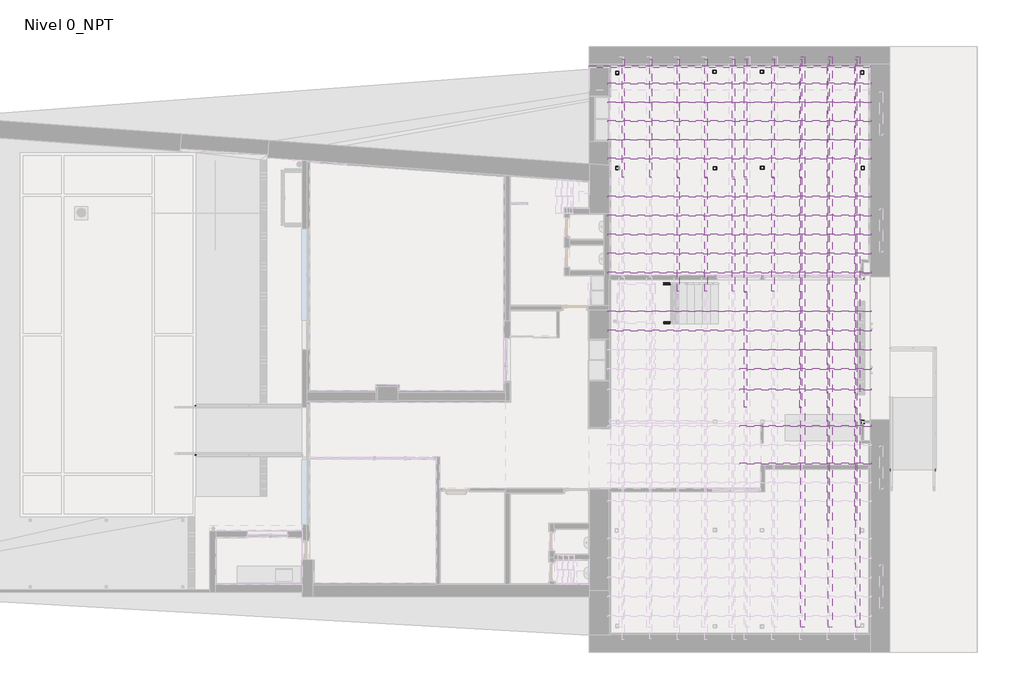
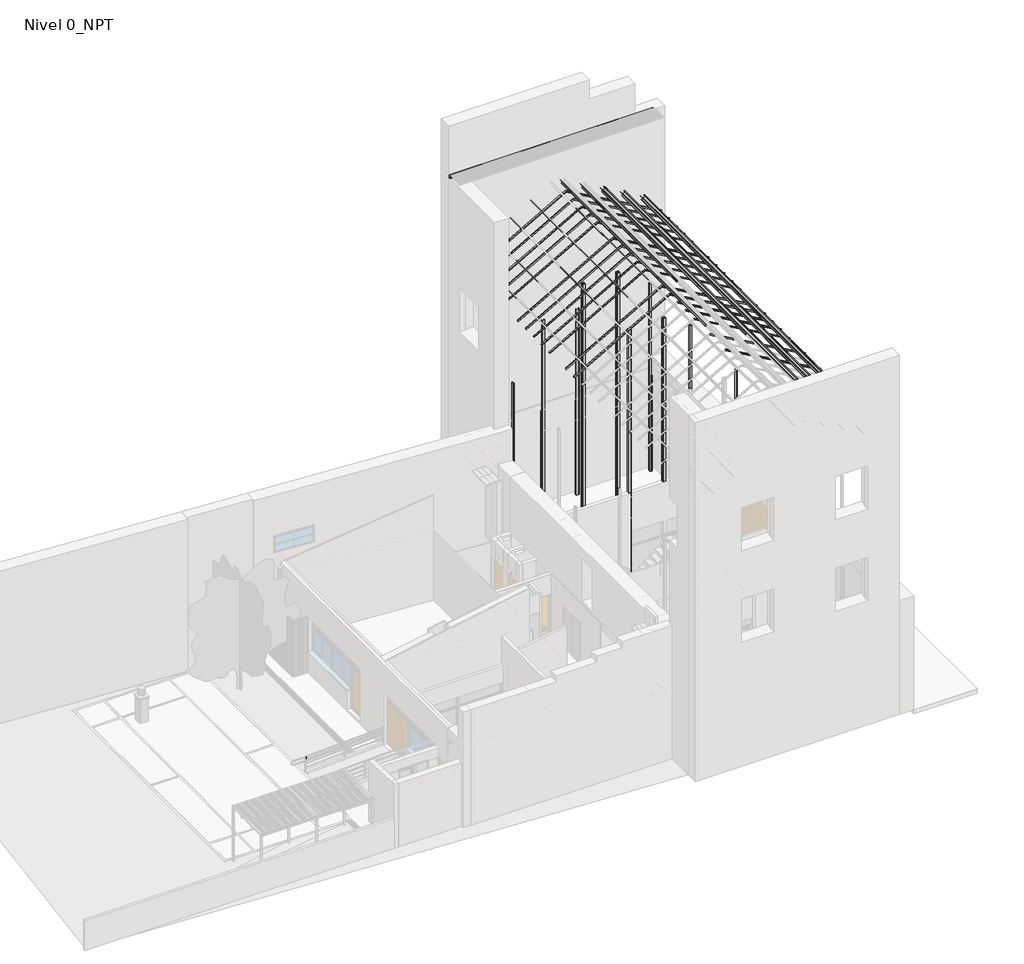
# One storey, part 7 of 10: 60 beams, 24 columns, 4 proxies.
"""IFC4 building model written with IfcOpenShell, lengths in millimetres."""

from ifc_helpers import new_model, si_unit, point, frame, frame_2d, origin, place, context, project, spatial, polyline, circle_curve, trimmed, segment, composite_curve, outline, extrude, transform, mapped, element, save
from components import c150x19_3_1b759e16, c150x19_3_503bdf3b, c150x19_3_91954537, ipn_140_41878df7, ipn_80_0cb7c897, ipn_80_a594fd54, ipn_80_11f7b24b, ipn_80_3f6c81a5, ipn_80_bc9c091f, ipn_80_898660c7, ipn_80_d1422b3e, ipn_80_3f087a86, ipn_80_43449075, ipn_80_99c5317e, ipn_80_1ac3ab99, ipn_80_9606c04a, ipn_80_8b3ddc1d, ipn_80_c03a737b, ipn_80_c00870bf, ipn_80_984d361e, upe160_6c25a5e3, m_soporte_metal_circular_m_soporte_metal_circular_cf76aa7a, upe_120_b411e4a0, upe_120_d63b093c, upe_120_001e46b5, upe_120_53fdf7fa, upe_120_1fc0e0ef, upe_120_cf57cb14, upe_120_7fe497cd, upe_120_22fd8285, upe_120_8100fb59, upe_120_21539871

model = new_model("IFC4")

# Units and contexts
model_context = context("Model", 3, world=origin())
ifc_project = project(units=[si_unit("LENGTHUNIT", "METRE", prefix="MILLI")], contexts=[model_context])

# Site, building, storey
site = spatial("IfcSite", under=ifc_project)
building = spatial("IfcBuilding", under=site)
storey = spatial("IfcBuildingStorey", under=building, Name="Nivel 0_NPT", Elevation=0.0)

# Beams
placement = place(None, origin())
c150x19_3_shape = c150x19_3_1b759e16(model_context)
element("IfcBeam", 1, ObjectType="EST-PER-C-HGalv : C150X19.3", at=placement, inside=storey, context=model_context, shape_type="MappedRepresentation", body=[
    mapped(c150x19_3_shape, transform((12674.2221596, 3778.6072273, 14601.8569732), x_axis=(0.0, -1.0, 0.0), y_axis=(0.8706797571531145, 0.0, -0.49185034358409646), z_axis=(0.49185034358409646, 0.0, 0.8706797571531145))),
])
c150x19_3_2_shape = c150x19_3_503bdf3b(model_context)
element("IfcBeam", 2, ObjectType="EST-PER-C-HGalv : C150X19.3", at=placement, inside=storey, context=model_context, shape_type="MappedRepresentation", body=[
    mapped(c150x19_3_2_shape, transform((14561.4205332, 3778.6072273, 13535.7713535), x_axis=(0.0, -1.0, 0.0), y_axis=(0.8706797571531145, 0.0, -0.49185034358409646), z_axis=(0.49185034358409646, 0.0, 0.8706797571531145))),
])
c150x19_3_3_shape = c150x19_3_91954537(model_context)
element("IfcBeam", 3, ObjectType="EST-PER-C-HGalv : C150X19.3", at=placement, inside=storey, context=model_context, shape_type="MappedRepresentation", body=[
    mapped(c150x19_3_3_shape, transform((13617.8213464, 3778.6072273, 14068.8141634), x_axis=(0.0, -1.0, 0.0), y_axis=(0.8706797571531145, 0.0, -0.49185034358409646), z_axis=(0.49185034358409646, 0.0, 0.8706797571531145))),
])
element("IfcBeam", 4, ObjectType="IPN - Secciones en I con alas cónicas : IPN 140", at=placement, inside=storey, context=model_context, shape_type="SweptSolid", body=[
    extrude(outline(composite_curve([segment(polyline([(70.0, 33.0), (70.0, -33.0), (66.6671583, -33.0)]), True, "CONTINUOUS"), segment(trimmed(circle_curve(frame_2d((66.6671583, -29.6)), 3.4), [point((66.6671583, -33.0))], [point((63.2999963, -30.0714027))], False, "CARTESIAN"), True, "CONTINUOUS"), segment(polyline([(63.2999963, -30.0714027), (60.176359, -7.7597073)]), True, "CONTINUOUS"), segment(trimmed(circle_curve(frame_2d((54.531411, -8.55)), 5.7), [point((60.176359, -7.7597073))], [point((54.531411, -2.85))], True, "CARTESIAN"), True, "CONTINUOUS"), segment(polyline([(54.531411, -2.85), (-54.5314111, -2.85)]), True, "CONTINUOUS"), segment(trimmed(circle_curve(frame_2d((-54.5314111, -8.55)), 5.7), [point((-54.5314111, -2.85))], [point((-60.176359, -7.7597073))], True, "CARTESIAN"), True, "CONTINUOUS"), segment(polyline([(-60.176359, -7.7597073), (-63.2999964, -30.0714027)]), True, "CONTINUOUS"), segment(trimmed(circle_curve(frame_2d((-66.6671584, -29.6)), 3.4), [point((-63.2999964, -30.0714027))], [point((-66.6671584, -33.0))], False, "CARTESIAN"), True, "CONTINUOUS"), segment(polyline([(-66.6671584, -33.0), (-70.0, -33.0), (-70.0, 33.0), (-66.6671584, 33.0)]), True, "CONTINUOUS"), segment(trimmed(circle_curve(frame_2d((-66.6671584, 29.6)), 3.4), [point((-66.6671584, 33.0))], [point((-63.2999964, 30.0714027))], False, "CARTESIAN"), True, "CONTINUOUS"), segment(polyline([(-63.2999964, 30.0714027), (-60.176359, 7.7597073)]), True, "CONTINUOUS"), segment(trimmed(circle_curve(frame_2d((-54.5314111, 8.55)), 5.7), [point((-60.176359, 7.7597073))], [point((-54.5314111, 2.85))], True, "CARTESIAN"), True, "CONTINUOUS"), segment(polyline([(-54.5314111, 2.85), (54.531411, 2.85)]), True, "CONTINUOUS"), segment(trimmed(circle_curve(frame_2d((54.531411, 8.55)), 5.7), [point((54.531411, 2.85))], [point((60.176359, 7.7597073))], True, "CARTESIAN"), True, "CONTINUOUS"), segment(polyline([(60.176359, 7.7597073), (63.2999963, 30.0714027)]), True, "CONTINUOUS"), segment(trimmed(circle_curve(frame_2d((66.6671583, 29.6)), 3.4), [point((63.2999963, 30.0714027))], [point((66.6671583, 33.0))], False, "CARTESIAN"), True, "CONTINUOUS"), segment(polyline([(66.6671583, 33.0), (70.0, 33.0)]), True, "CONTINUOUS")], self_intersect=False)), frame((9655.6040754, 4877.5924402, -59.79128), z_axis=(-0.7954706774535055, 0.0, 0.6059920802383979), x_axis=(0.6059920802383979, 0.0, 0.7954706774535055)), (0.0, 0.0, 1.0), 2567.0),
])
element("IfcBeam", 5, ObjectType="IPN - Secciones en I con alas cónicas : IPN 140", at=placement, inside=storey, context=model_context, shape_type="SweptSolid", body=[
    extrude(outline(composite_curve([segment(polyline([(70.0, 33.0), (70.0, -33.0), (66.6671584, -33.0)]), True, "CONTINUOUS"), segment(trimmed(circle_curve(frame_2d((66.6671584, -29.6)), 3.4), [point((66.6671584, -33.0))], [point((63.2999964, -30.0714027))], False, "CARTESIAN"), True, "CONTINUOUS"), segment(polyline([(63.2999964, -30.0714027), (60.176359, -7.7597073)]), True, "CONTINUOUS"), segment(trimmed(circle_curve(frame_2d((54.5314111, -8.55)), 5.7), [point((60.176359, -7.7597073))], [point((54.5314111, -2.85))], True, "CARTESIAN"), True, "CONTINUOUS"), segment(polyline([(54.5314111, -2.85), (-54.5314111, -2.85)]), True, "CONTINUOUS"), segment(trimmed(circle_curve(frame_2d((-54.5314111, -8.55)), 5.7), [point((-54.5314111, -2.85))], [point((-60.176359, -7.7597073))], True, "CARTESIAN"), True, "CONTINUOUS"), segment(polyline([(-60.176359, -7.7597073), (-63.2999964, -30.0714027)]), True, "CONTINUOUS"), segment(trimmed(circle_curve(frame_2d((-66.6671583, -29.6)), 3.4), [point((-63.2999964, -30.0714027))], [point((-66.6671583, -33.0))], False, "CARTESIAN"), True, "CONTINUOUS"), segment(polyline([(-66.6671583, -33.0), (-69.9999999, -33.0), (-69.9999999, 33.0), (-66.6671583, 33.0)]), True, "CONTINUOUS"), segment(trimmed(circle_curve(frame_2d((-66.6671583, 29.6)), 3.4), [point((-66.6671583, 33.0))], [point((-63.2999964, 30.0714026))], False, "CARTESIAN"), True, "CONTINUOUS"), segment(polyline([(-63.2999964, 30.0714026), (-60.176359, 7.7597072)]), True, "CONTINUOUS"), segment(trimmed(circle_curve(frame_2d((-54.5314111, 8.55)), 5.7), [point((-60.176359, 7.7597072))], [point((-54.5314111, 2.85))], True, "CARTESIAN"), True, "CONTINUOUS"), segment(polyline([(-54.5314111, 2.85), (54.5314111, 2.85)]), True, "CONTINUOUS"), segment(trimmed(circle_curve(frame_2d((54.5314111, 8.55)), 5.7), [point((54.5314111, 2.85))], [point((60.176359, 7.7597072))], True, "CARTESIAN"), True, "CONTINUOUS"), segment(polyline([(60.176359, 7.7597072), (63.2999964, 30.0714026)]), True, "CONTINUOUS"), segment(trimmed(circle_curve(frame_2d((66.6671584, 29.6)), 3.4), [point((63.2999964, 30.0714026))], [point((66.6671584, 33.0))], False, "CARTESIAN"), True, "CONTINUOUS"), segment(polyline([(66.6671584, 33.0), (70.0, 33.0)]), True, "CONTINUOUS")], self_intersect=False)), frame((9655.65876, 6211.6250843, -59.8329899), z_axis=(-0.7958622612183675, 0.0, 0.6054777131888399), x_axis=(0.6054777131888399, 0.0, 0.7958622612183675)), (0.0, 0.0, 1.0), 2696.0674776),
])
ipn_140_shape = ipn_140_41878df7(model_context)
element("IfcBeam", 6, ObjectType="IPN - Secciones en I con alas cónicas : IPN 140", at=placement, inside=storey, context=model_context, shape_type="MappedRepresentation", body=[
    mapped(ipn_140_shape, transform((7811.945484, 10737.5539264, -100.0), x_axis=(1.0, 0.0, 0.0), y_axis=(0.0, 1.0, 0.0), z_axis=(0.0, 0.0, 1.0))),
])
ipn_80_shape = ipn_80_0cb7c897(model_context)
element("IfcBeam", 7, ObjectType="IPN - Secciones en I con alas cónicas : IPN 80", at=placement, inside=storey, context=model_context, shape_type="MappedRepresentation", body=[
    mapped(ipn_80_shape, transform((11644.1318224, 11896.8072274, 15034.4503386), x_axis=(0.0, 1.0, 0.0), y_axis=(-0.8706797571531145, 0.0, 0.49185034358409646), z_axis=(0.49185034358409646, 0.0, 0.8706797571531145))),
])
element("IfcBeam", 8, ObjectType="IPN - Secciones en I con alas cónicas : IPN 80", at=placement, inside=storey, context=model_context, shape_type="MappedRepresentation", body=[
    mapped(ipn_80_shape, transform((12587.7310092, 11896.8072274, 14501.4075287), x_axis=(0.0, 1.0, 0.0), y_axis=(-0.8706797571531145, 0.0, 0.49185034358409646), z_axis=(0.49185034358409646, 0.0, 0.8706797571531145))),
])
element("IfcBeam", 9, ObjectType="IPN - Secciones en I con alas cónicas : IPN 80", at=placement, inside=storey, context=model_context, shape_type="MappedRepresentation", body=[
    mapped(ipn_80_shape, transform((13531.3301961, 11896.8072274, 13968.3647188), x_axis=(0.0, 1.0, 0.0), y_axis=(-0.8706797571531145, 0.0, 0.49185034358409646), z_axis=(0.49185034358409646, 0.0, 0.8706797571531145))),
])
ipn_80_2_shape = ipn_80_a594fd54(model_context)
element("IfcBeam", 10, ObjectType="IPN - Secciones en I con alas cónicas : IPN 80", at=placement, inside=storey, context=model_context, shape_type="MappedRepresentation", body=[
    mapped(ipn_80_2_shape, transform((10286.4349459, 7895.8072273, 15567.4931484), x_axis=(0.0, 1.0, 0.0), y_axis=(-0.8706797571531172, 0.0, -0.49185034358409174), z_axis=(-0.49185034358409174, 0.0, 0.8706797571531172))),
])
ipn_80_3_shape = ipn_80_11f7b24b(model_context)
element("IfcBeam", 11, ObjectType="IPN - Secciones en I con alas cónicas : IPN 80", at=placement, inside=storey, context=model_context, shape_type="MappedRepresentation", body=[
    mapped(ipn_80_3_shape, transform((10286.4349459, 11896.8072274, 15567.4931484), x_axis=(0.0, 1.0, 0.0), y_axis=(-0.8706797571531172, 0.0, -0.49185034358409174), z_axis=(-0.49185034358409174, 0.0, 0.8706797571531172))),
])
element("IfcBeam", 12, ObjectType="IPN - Secciones en I con alas cónicas : IPN 80", at=placement, inside=storey, context=model_context, shape_type="MappedRepresentation", body=[
    mapped(ipn_80_3_shape, transform((6510.9498489, 11896.8072274, 13434.7070961), x_axis=(0.0, 1.0, 0.0), y_axis=(-0.8706797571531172, 0.0, -0.49185034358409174), z_axis=(-0.49185034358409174, 0.0, 0.8706797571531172))),
])
element("IfcBeam", 13, ObjectType="IPN - Secciones en I con alas cónicas : IPN 80", at=placement, inside=storey, context=model_context, shape_type="MappedRepresentation", body=[
    mapped(ipn_80_3_shape, transform((9342.5636716, 11896.8072274, 15034.2966353), x_axis=(0.0, 1.0, 0.0), y_axis=(-0.8706797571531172, 0.0, -0.49185034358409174), z_axis=(-0.49185034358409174, 0.0, 0.8706797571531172))),
])
element("IfcBeam", 14, ObjectType="IPN - Secciones en I con alas cónicas : IPN 80", at=placement, inside=storey, context=model_context, shape_type="MappedRepresentation", body=[
    mapped(ipn_80_3_shape, transform((8398.6923974, 11896.8072274, 14501.1001222), x_axis=(0.0, 1.0, 0.0), y_axis=(-0.8706797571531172, 0.0, -0.49185034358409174), z_axis=(-0.49185034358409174, 0.0, 0.8706797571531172))),
])
element("IfcBeam", 15, ObjectType="IPN - Secciones en I con alas cónicas : IPN 80", at=placement, inside=storey, context=model_context, shape_type="MappedRepresentation", body=[
    mapped(ipn_80_3_shape, transform((7454.8211231, 11896.8072274, 13967.9036092), x_axis=(0.0, 1.0, 0.0), y_axis=(-0.8706797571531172, 0.0, -0.49185034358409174), z_axis=(-0.49185034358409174, 0.0, 0.8706797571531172))),
])
ipn_80_4_shape = ipn_80_3f6c81a5(model_context)
element("IfcBeam", 16, ObjectType="IPN - Secciones en I con alas cónicas : IPN 80", at=placement, inside=storey, context=model_context, shape_type="MappedRepresentation", body=[
    mapped(ipn_80_4_shape, transform((9342.5636716, 7895.8072273, 15034.2966353), x_axis=(0.0, 1.0, 0.0), y_axis=(-0.8706797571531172, 0.0, -0.49185034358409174), z_axis=(-0.49185034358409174, 0.0, 0.8706797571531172))),
])
element("IfcBeam", 17, ObjectType="IPN - Secciones en I con alas cónicas : IPN 80", at=placement, inside=storey, context=model_context, shape_type="MappedRepresentation", body=[
    mapped(ipn_80_4_shape, transform((8398.6923974, 7895.8072273, 14501.1001222), x_axis=(0.0, 1.0, 0.0), y_axis=(-0.8706797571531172, 0.0, -0.49185034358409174), z_axis=(-0.49185034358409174, 0.0, 0.8706797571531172))),
])
ipn_80_5_shape = ipn_80_bc9c091f(model_context)
element("IfcBeam", 18, ObjectType="IPN - Secciones en I con alas cónicas : IPN 80", at=placement, inside=storey, context=model_context, shape_type="MappedRepresentation", body=[
    mapped(ipn_80_5_shape, transform((10700.5326356, 11898.3072273, 15567.4931484), x_axis=(0.0, 1.0, 0.0), y_axis=(-0.8706797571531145, 0.0, 0.49185034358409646), z_axis=(0.49185034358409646, 0.0, 0.8706797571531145))),
])
ipn_80_6_shape = ipn_80_898660c7(model_context)
element("IfcBeam", 19, ObjectType="IPN - Secciones en I con alas cónicas : IPN 80", at=placement, inside=storey, context=model_context, shape_type="MappedRepresentation", body=[
    mapped(ipn_80_6_shape, transform((11644.1318224, 7893.3072273, 15034.4503386), x_axis=(0.0, 1.0, 0.0), y_axis=(-0.8706797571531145, 0.0, 0.49185034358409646), z_axis=(0.49185034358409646, 0.0, 0.8706797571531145))),
])
ipn_80_7_shape = ipn_80_d1422b3e(model_context)
element("IfcBeam", 20, ObjectType="IPN - Secciones en I con alas cónicas : IPN 80", at=placement, inside=storey, context=model_context, shape_type="MappedRepresentation", body=[
    mapped(ipn_80_7_shape, transform((12587.7310092, 7885.8072273, 14501.4075287), x_axis=(0.0, 1.0, 0.0), y_axis=(-0.8706797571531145, 0.0, 0.49185034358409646), z_axis=(0.49185034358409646, 0.0, 0.8706797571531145))),
])
ipn_80_8_shape = ipn_80_3f087a86(model_context)
element("IfcBeam", 21, ObjectType="IPN - Secciones en I con alas cónicas : IPN 80", at=placement, inside=storey, context=model_context, shape_type="MappedRepresentation", body=[
    mapped(ipn_80_8_shape, transform((13531.3301961, 7895.8072273, 13968.3647188), x_axis=(0.0, 1.0, 0.0), y_axis=(-0.8706797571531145, 0.0, 0.49185034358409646), z_axis=(0.49185034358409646, 0.0, 0.8706797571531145))),
])
ipn_80_9_shape = ipn_80_43449075(model_context)
element("IfcBeam", 22, ObjectType="IPN - Secciones en I con alas cónicas : IPN 80", at=placement, inside=storey, context=model_context, shape_type="MappedRepresentation", body=[
    mapped(ipn_80_9_shape, transform((14474.9293829, 11895.8072273, 13435.321909), x_axis=(0.0, 1.0, 0.0), y_axis=(-0.8706797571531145, 0.0, 0.49185034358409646), z_axis=(0.49185034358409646, 0.0, 0.8706797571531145))),
])
ipn_80_10_shape = ipn_80_99c5317e(model_context)
element("IfcBeam", 23, ObjectType="IPN - Secciones en I con alas cónicas : IPN 80", at=placement, inside=storey, context=model_context, shape_type="MappedRepresentation", body=[
    mapped(ipn_80_10_shape, transform((14474.9293829, 7894.8072273, 13435.321909), x_axis=(0.0, 1.0, 0.0), y_axis=(-0.8706797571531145, 0.0, 0.49185034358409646), z_axis=(0.49185034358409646, 0.0, 0.8706797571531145))),
])
ipn_80_11_shape = ipn_80_1ac3ab99(model_context)
element("IfcBeam", 24, ObjectType="IPN - Secciones en I con alas cónicas : IPN 80", at=placement, inside=storey, context=model_context, shape_type="MappedRepresentation", body=[
    mapped(ipn_80_11_shape, transform((12587.7310092, 3954.8072273, 14501.4075287), x_axis=(0.0, 1.0, 0.0), y_axis=(-0.8706797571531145, 0.0, 0.49185034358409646), z_axis=(0.49185034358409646, 0.0, 0.8706797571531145))),
])
ipn_80_12_shape = ipn_80_9606c04a(model_context)
element("IfcBeam", 25, ObjectType="IPN - Secciones en I con alas cónicas : IPN 80", at=placement, inside=storey, context=model_context, shape_type="MappedRepresentation", body=[
    mapped(ipn_80_12_shape, transform((13531.3301961, 3964.8072273, 13968.3647188), x_axis=(0.0, 1.0, 0.0), y_axis=(-0.8706797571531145, 0.0, 0.49185034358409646), z_axis=(0.49185034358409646, 0.0, 0.8706797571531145))),
])
ipn_80_13_shape = ipn_80_8b3ddc1d(model_context)
element("IfcBeam", 26, ObjectType="IPN - Secciones en I con alas cónicas : IPN 80", at=placement, inside=storey, context=model_context, shape_type="MappedRepresentation", body=[
    mapped(ipn_80_13_shape, transform((14474.9293829, 3964.8072273, 13435.321909), x_axis=(0.0, 1.0, 0.0), y_axis=(-0.8706797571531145, 0.0, 0.49185034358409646), z_axis=(0.49185034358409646, 0.0, 0.8706797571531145))),
])
ipn_80_14_shape = ipn_80_c03a737b(model_context)
element("IfcBeam", 27, ObjectType="IPN - Secciones en I con alas cónicas : IPN 80", at=placement, inside=storey, context=model_context, shape_type="MappedRepresentation", body=[
    mapped(ipn_80_14_shape, transform((14474.9293829, 54.8072273, 13435.321909), x_axis=(0.0, 1.0, 0.0), y_axis=(-0.8706797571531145, 0.0, 0.49185034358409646), z_axis=(0.49185034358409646, 0.0, 0.8706797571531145))),
])
element("IfcBeam", 28, ObjectType="IPN - Secciones en I con alas cónicas : IPN 80", at=placement, inside=storey, context=model_context, shape_type="MappedRepresentation", body=[
    mapped(ipn_80_14_shape, transform((13531.3301961, 54.8072273, 13968.3647188), x_axis=(0.0, 1.0, 0.0), y_axis=(-0.8706797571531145, 0.0, 0.49185034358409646), z_axis=(0.49185034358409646, 0.0, 0.8706797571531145))),
])
ipn_80_15_shape = ipn_80_c00870bf(model_context)
element("IfcBeam", 29, ObjectType="IPN - Secciones en I con alas cónicas : IPN 80", at=placement, inside=storey, context=model_context, shape_type="MappedRepresentation", body=[
    mapped(ipn_80_15_shape, transform((10700.5326356, 4215.6072273, 15567.4931484), x_axis=(0.0, 1.0, 0.0), y_axis=(-0.8706797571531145, 0.0, 0.49185034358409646), z_axis=(0.49185034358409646, 0.0, 0.8706797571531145))),
])
ipn_80_16_shape = ipn_80_984d361e(model_context)
element("IfcBeam", 30, ObjectType="IPN - Secciones en I con alas cónicas : IPN 80", at=placement, inside=storey, context=model_context, shape_type="MappedRepresentation", body=[
    mapped(ipn_80_16_shape, transform((10700.5326356, 7898.7822273, 15567.4931484), x_axis=(0.0, 1.0, 0.0), y_axis=(-0.8706797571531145, 0.0, 0.49185034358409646), z_axis=(0.49185034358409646, 0.0, 0.8706797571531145))),
])
element("IfcBeam", 31, ObjectType="Madera : 50x50mm", at=placement, inside=storey, context=model_context, shape_type="SweptSolid", body=[
    extrude(outline(polyline([(15638.5147209, 10493.4837907), (15581.0883255, 10493.4837907), (13045.7104289, 14981.6421099), (13089.2444167, 15006.2346271), (15638.5147209, 10493.4837907)])), frame((0.0, 5248.4405607, 0.0), z_axis=(0.0, 1.0, 0.0), x_axis=(0.0, 0.0, 1.0)), (0.0, 0.0, 1.0), 50.0),
])
element("IfcBeam", 32, ObjectType="Madera : 50x50mm", at=placement, inside=storey, context=model_context, shape_type="SweptSolid", body=[
    extrude(outline(polyline([(15638.5147209, 10493.4837907), (13089.2444167, 5980.7329544), (13045.7104289, 6005.3254716), (15581.0883255, 10493.4837907), (15638.5147209, 10493.4837907)])), frame((0.0, 5248.4405607, 0.0), z_axis=(0.0, 1.0, 0.0), x_axis=(0.0, 0.0, 1.0)), (0.0, 0.0, 1.0), 50.0),
])
element("IfcBeam", 33, ObjectType="Madera : 50x50mm", at=placement, inside=storey, context=model_context, shape_type="SweptSolid", body=[
    extrude(outline(polyline([(15638.5147209, 10493.4837907), (15581.0883255, 10493.4837907), (13045.7104289, 14981.6421099), (13089.2444167, 15006.2346271), (15638.5147209, 10493.4837907)])), frame((0.0, 4589.273894, 0.0), z_axis=(0.0, 1.0, 0.0), x_axis=(0.0, 0.0, 1.0)), (0.0, 0.0, 1.0), 50.0),
])
element("IfcBeam", 34, ObjectType="Madera : 50x50mm", at=placement, inside=storey, context=model_context, shape_type="SweptSolid", body=[
    extrude(outline(polyline([(15638.5147209, 10493.4837907), (13089.2444167, 5980.7329544), (13045.7104289, 6005.3254716), (15581.0883255, 10493.4837907), (15638.5147209, 10493.4837907)])), frame((0.0, 4589.273894, 0.0), z_axis=(0.0, 1.0, 0.0), x_axis=(0.0, 0.0, 1.0)), (0.0, 0.0, 1.0), 50.0),
])
element("IfcBeam", 35, ObjectType="Madera : 50x50mm", at=placement, inside=storey, context=model_context, shape_type="SweptSolid", body=[
    extrude(outline(polyline([(15638.5147209, 10493.4837907), (15581.0883255, 10493.4837907), (13045.7104289, 14981.6421099), (13089.2444167, 15006.2346271), (15638.5147209, 10493.4837907)])), frame((0.0, 3930.1072273, 0.0), z_axis=(0.0, 1.0, 0.0), x_axis=(0.0, 0.0, 1.0)), (0.0, 0.0, 1.0), 50.0),
])
element("IfcBeam", 36, ObjectType="Madera : 50x50mm", at=placement, inside=storey, context=model_context, shape_type="SweptSolid", body=[
    extrude(outline(polyline([(15638.5147209, 10493.4837907), (15581.0883255, 10493.4837907), (13045.7104289, 14981.6421099), (13089.2444167, 15006.2346271), (15638.5147209, 10493.4837907)])), frame((0.0, 3270.9405607, 0.0), z_axis=(0.0, 1.0, 0.0), x_axis=(0.0, 0.0, 1.0)), (0.0, 0.0, 1.0), 50.0),
])
element("IfcBeam", 37, ObjectType="Madera : 50x50mm", at=placement, inside=storey, context=model_context, shape_type="SweptSolid", body=[
    extrude(outline(polyline([(15638.5147209, 10493.4837907), (15581.0883255, 10493.4837907), (13045.7104289, 14981.6421099), (13089.2444167, 15006.2346271), (15638.5147209, 10493.4837907)])), frame((0.0, 2561.773894, 0.0), z_axis=(0.0, 1.0, 0.0), x_axis=(0.0, 0.0, 1.0)), (0.0, 0.0, 1.0), 50.0),
])
element("IfcBeam", 38, ObjectType="Madera : 50x50mm", at=placement, inside=storey, context=model_context, shape_type="SweptSolid", body=[
    extrude(outline(polyline([(15638.5147209, 10493.4837907), (15581.0883255, 10493.4837907), (13045.7104289, 14981.6421099), (13089.2444167, 15006.2346271), (15638.5147209, 10493.4837907)])), frame((0.0, 8536.273894, 0.0), z_axis=(0.0, 1.0, 0.0), x_axis=(0.0, 0.0, 1.0)), (0.0, 0.0, 1.0), 50.0),
])
element("IfcBeam", 39, ObjectType="Madera : 50x50mm", at=placement, inside=storey, context=model_context, shape_type="SweptSolid", body=[
    extrude(outline(polyline([(15638.5147209, 10493.4837907), (13089.2444167, 5980.7329544), (13045.7104289, 6005.3254716), (15581.0883255, 10493.4837907), (15638.5147209, 10493.4837907)])), frame((0.0, 8536.273894, 0.0), z_axis=(0.0, 1.0, 0.0), x_axis=(0.0, 0.0, 1.0)), (0.0, 0.0, 1.0), 50.0),
])
element("IfcBeam", 40, ObjectType="Madera : 50x50mm", at=placement, inside=storey, context=model_context, shape_type="SweptSolid", body=[
    extrude(outline(polyline([(15638.5147209, 10493.4837907), (15581.0883255, 10493.4837907), (13045.7104289, 14981.6421099), (13089.2444167, 15006.2346271), (15638.5147209, 10493.4837907)])), frame((0.0, 9187.4405607, 0.0), z_axis=(0.0, 1.0, 0.0), x_axis=(0.0, 0.0, 1.0)), (0.0, 0.0, 1.0), 50.0),
])
element("IfcBeam", 41, ObjectType="Madera : 50x50mm", at=placement, inside=storey, context=model_context, shape_type="SweptSolid", body=[
    extrude(outline(polyline([(15638.5147209, 10493.4837907), (13089.2444167, 5980.7329544), (13045.7104289, 6005.3254716), (15581.0883255, 10493.4837907), (15638.5147209, 10493.4837907)])), frame((0.0, 9187.4405607, 0.0), z_axis=(0.0, 1.0, 0.0), x_axis=(0.0, 0.0, 1.0)), (0.0, 0.0, 1.0), 50.0),
])
element("IfcBeam", 42, ObjectType="Madera : 50x50mm", at=placement, inside=storey, context=model_context, shape_type="SweptSolid", body=[
    extrude(outline(polyline([(15638.5147209, 10493.4837907), (15581.0883255, 10493.4837907), (13045.7104289, 14981.6421099), (13089.2444167, 15006.2346271), (15638.5147209, 10493.4837907)])), frame((0.0, 7885.1072273, 0.0), z_axis=(0.0, 1.0, 0.0), x_axis=(0.0, 0.0, 1.0)), (0.0, 0.0, 1.0), 50.0),
])
element("IfcBeam", 43, ObjectType="Madera : 50x50mm", at=placement, inside=storey, context=model_context, shape_type="SweptSolid", body=[
    extrude(outline(polyline([(15638.5147209, 10493.4837907), (13089.2444167, 5980.7329544), (13045.7104289, 6005.3254716), (15581.0883255, 10493.4837907), (15638.5147209, 10493.4837907)])), frame((0.0, 7885.1072273, 0.0), z_axis=(0.0, 1.0, 0.0), x_axis=(0.0, 0.0, 1.0)), (0.0, 0.0, 1.0), 50.0),
])
element("IfcBeam", 44, ObjectType="Madera : 50x50mm", at=placement, inside=storey, context=model_context, shape_type="SweptSolid", body=[
    extrude(outline(polyline([(15638.5147209, 10493.4837907), (15581.0883255, 10493.4837907), (13045.7104289, 14981.6421099), (13089.2444167, 15006.2346271), (15638.5147209, 10493.4837907)])), frame((0.0, 7233.9405607, 0.0), z_axis=(0.0, 1.0, 0.0), x_axis=(0.0, 0.0, 1.0)), (0.0, 0.0, 1.0), 50.0),
])
element("IfcBeam", 45, ObjectType="Madera : 50x50mm", at=placement, inside=storey, context=model_context, shape_type="SweptSolid", body=[
    extrude(outline(polyline([(15638.5147209, 10493.4837907), (13089.2444167, 5980.7329544), (13045.7104289, 6005.3254716), (15581.0883255, 10493.4837907), (15638.5147209, 10493.4837907)])), frame((0.0, 7233.9405607, 0.0), z_axis=(0.0, 1.0, 0.0), x_axis=(0.0, 0.0, 1.0)), (0.0, 0.0, 1.0), 50.0),
])
element("IfcBeam", 46, ObjectType="Madera : 50x50mm", at=placement, inside=storey, context=model_context, shape_type="SweptSolid", body=[
    extrude(outline(polyline([(15638.5147209, 10493.4837907), (15581.0883255, 10493.4837907), (13045.7104289, 14981.6421099), (13089.2444167, 15006.2346271), (15638.5147209, 10493.4837907)])), frame((0.0, 6582.773894, 0.0), z_axis=(0.0, 1.0, 0.0), x_axis=(0.0, 0.0, 1.0)), (0.0, 0.0, 1.0), 50.0),
])
element("IfcBeam", 47, ObjectType="Madera : 50x50mm", at=placement, inside=storey, context=model_context, shape_type="SweptSolid", body=[
    extrude(outline(polyline([(15638.5147209, 10493.4837907), (13089.2444167, 5980.7329544), (13045.7104289, 6005.3254716), (15581.0883255, 10493.4837907), (15638.5147209, 10493.4837907)])), frame((0.0, 6582.773894, 0.0), z_axis=(0.0, 1.0, 0.0), x_axis=(0.0, 0.0, 1.0)), (0.0, 0.0, 1.0), 50.0),
])
element("IfcBeam", 48, ObjectType="Madera : 50x50mm", at=placement, inside=storey, context=model_context, shape_type="SweptSolid", body=[
    extrude(outline(polyline([(15638.5147209, 10493.4837907), (15581.0883255, 10493.4837907), (13045.7104289, 14981.6421099), (13089.2444167, 15006.2346271), (15638.5147209, 10493.4837907)])), frame((0.0, 12408.6072273, 0.0), z_axis=(0.0, 1.0, 0.0), x_axis=(0.0, 0.0, 1.0)), (0.0, 0.0, 1.0), 50.0),
])
element("IfcBeam", 49, ObjectType="Madera : 50x50mm", at=placement, inside=storey, context=model_context, shape_type="SweptSolid", body=[
    extrude(outline(polyline([(15638.5147209, 10493.4837907), (15581.0883255, 10493.4837907), (13045.7104289, 14981.6421099), (13089.2444167, 15006.2346271), (15638.5147209, 10493.4837907)])), frame((0.0, 13051.1072273, 0.0), z_axis=(0.0, 1.0, 0.0), x_axis=(0.0, 0.0, 1.0)), (0.0, 0.0, 1.0), 50.0),
])
element("IfcBeam", 50, ObjectType="Madera : 50x50mm", at=placement, inside=storey, context=model_context, shape_type="SweptSolid", body=[
    extrude(outline(polyline([(15638.5147209, 10493.4837907), (15581.0883255, 10493.4837907), (13045.7104289, 14981.6421099), (13089.2444167, 15006.2346271), (15638.5147209, 10493.4837907)])), frame((0.0, 11766.1072273, 0.0), z_axis=(0.0, 1.0, 0.0), x_axis=(0.0, 0.0, 1.0)), (0.0, 0.0, 1.0), 50.0),
])
element("IfcBeam", 51, ObjectType="Madera : 50x50mm", at=placement, inside=storey, context=model_context, shape_type="SweptSolid", body=[
    extrude(outline(polyline([(15638.5147209, 10493.4837907), (15581.0883255, 10493.4837907), (13045.7104289, 14981.6421099), (13089.2444167, 15006.2346271), (15638.5147209, 10493.4837907)])), frame((0.0, 11123.6072273, 0.0), z_axis=(0.0, 1.0, 0.0), x_axis=(0.0, 0.0, 1.0)), (0.0, 0.0, 1.0), 50.0),
])
element("IfcBeam", 52, ObjectType="Madera : 50x50mm", at=placement, inside=storey, context=model_context, shape_type="SweptSolid", body=[
    extrude(outline(polyline([(15638.5147209, 10493.4837907), (15581.0883255, 10493.4837907), (13045.7104289, 14981.6421099), (13089.2444167, 15006.2346271), (15638.5147209, 10493.4837907)])), frame((0.0, 10481.1072273, 0.0), z_axis=(0.0, 1.0, 0.0), x_axis=(0.0, 0.0, 1.0)), (0.0, 0.0, 1.0), 50.0),
])
element("IfcBeam", 53, ObjectType="Madera : 50x50mm", at=placement, inside=storey, context=model_context, shape_type="SweptSolid", body=[
    extrude(outline(polyline([(15638.5147209, 10493.4837907), (13089.2444167, 5980.7329544), (13045.7104289, 6005.3254716), (15581.0883255, 10493.4837907), (15638.5147209, 10493.4837907)])), frame((0.0, 12408.6072273, 0.0), z_axis=(0.0, 1.0, 0.0), x_axis=(0.0, 0.0, 1.0)), (0.0, 0.0, 1.0), 50.0),
])
element("IfcBeam", 54, ObjectType="Madera : 50x50mm", at=placement, inside=storey, context=model_context, shape_type="SweptSolid", body=[
    extrude(outline(polyline([(15638.5147209, 10493.4837907), (13089.2444167, 5980.7329544), (13045.7104289, 6005.3254716), (15581.0883255, 10493.4837907), (15638.5147209, 10493.4837907)])), frame((0.0, 13051.1072273, 0.0), z_axis=(0.0, 1.0, 0.0), x_axis=(0.0, 0.0, 1.0)), (0.0, 0.0, 1.0), 50.0),
])
element("IfcBeam", 55, ObjectType="Madera : 50x50mm", at=placement, inside=storey, context=model_context, shape_type="SweptSolid", body=[
    extrude(outline(polyline([(15638.5147209, 10493.4837907), (13089.2444167, 5980.7329544), (13045.7104289, 6005.3254716), (15581.0883255, 10493.4837907), (15638.5147209, 10493.4837907)])), frame((0.0, 11766.1072273, 0.0), z_axis=(0.0, 1.0, 0.0), x_axis=(0.0, 0.0, 1.0)), (0.0, 0.0, 1.0), 50.0),
])
element("IfcBeam", 56, ObjectType="Madera : 50x50mm", at=placement, inside=storey, context=model_context, shape_type="SweptSolid", body=[
    extrude(outline(polyline([(15638.5147209, 10493.4837907), (13089.2444167, 5980.7329544), (13045.7104289, 6005.3254716), (15581.0883255, 10493.4837907), (15638.5147209, 10493.4837907)])), frame((0.0, 11123.6072273, 0.0), z_axis=(0.0, 1.0, 0.0), x_axis=(0.0, 0.0, 1.0)), (0.0, 0.0, 1.0), 50.0),
])
element("IfcBeam", 57, ObjectType="Madera : 50x50mm", at=placement, inside=storey, context=model_context, shape_type="SweptSolid", body=[
    extrude(outline(polyline([(15638.5147209, 10493.4837907), (13089.2444167, 5980.7329544), (13045.7104289, 6005.3254716), (15581.0883255, 10493.4837907), (15638.5147209, 10493.4837907)])), frame((0.0, 10481.1072273, 0.0), z_axis=(0.0, 1.0, 0.0), x_axis=(0.0, 0.0, 1.0)), (0.0, 0.0, 1.0), 50.0),
])
element("IfcBeam", 58, ObjectType="Madera : 50x50mm", at=placement, inside=storey, context=model_context, shape_type="SweptSolid", body=[
    extrude(outline(polyline([(15638.5147209, 10493.4837907), (15581.0883255, 10493.4837907), (13045.7104289, 14981.6421099), (13089.2444167, 15006.2346271), (15638.5147209, 10493.4837907)])), frame((0.0, 1310.4405607, 0.0), z_axis=(0.0, 1.0, 0.0), x_axis=(0.0, 0.0, 1.0)), (0.0, 0.0, 1.0), 50.0),
])
element("IfcBeam", 59, ObjectType="Madera : 50x50mm", at=placement, inside=storey, context=model_context, shape_type="SweptSolid", body=[
    extrude(outline(polyline([(15638.5147209, 10493.4837907), (15581.0883255, 10493.4837907), (13045.7104289, 14981.6421099), (13089.2444167, 15006.2346271), (15638.5147209, 10493.4837907)])), frame((0.0, 26.1072273, 0.0), z_axis=(0.0, 1.0, 0.0), x_axis=(0.0, 0.0, 1.0)), (0.0, 0.0, 1.0), 50.0),
])
upe160_shape = upe160_6c25a5e3(model_context)
element("IfcBeam", 60, ObjectType="U-Canales de ala paralela : UPE160", at=placement, inside=storey, context=model_context, shape_type="MappedRepresentation", body=[
    mapped(upe160_shape, transform((10159.5512027, 13663.4072273, 17780.0), x_axis=(1.0, 0.0, 0.0), y_axis=(0.0, 1.0, 0.0), z_axis=(0.0, 0.0, 1.0))),
])

# Proxies
m_soporte_metal_circular_m_soporte_metal_circular_shape = m_soporte_metal_circular_m_soporte_metal_circular_cf76aa7a(model_context)
element("IfcBuildingElementProxy", 61, Name="M_Soporte - Metal - Circular : M_Soporte - Metal - Circular", ObjectType="M_Soporte - Metal - Circular : M_Soporte - Metal - Circular", at=placement, inside=storey, context=model_context, shape_type="MappedRepresentation", body=[
    mapped(m_soporte_metal_circular_m_soporte_metal_circular_shape, transform((-8142.8947566, 398.6072273, 675.0097807), x_axis=(-1.0, 0.0, 0.0), y_axis=(0.0, -1.0, 0.0), z_axis=(0.0, 0.0, 1.0))),
])
element("IfcBuildingElementProxy", 62, Name="M_Soporte - Metal - Circular : M_Soporte - Metal - Circular", ObjectType="M_Soporte - Metal - Circular : M_Soporte - Metal - Circular", at=placement, inside=storey, context=model_context, shape_type="MappedRepresentation", body=[
    mapped(m_soporte_metal_circular_m_soporte_metal_circular_shape, transform((-8142.8947566, 1988.6072273, 675.0097807), x_axis=(1.0, 0.0, 0.0), y_axis=(0.0, 1.0, 0.0), z_axis=(0.0, 0.0, 1.0))),
])
element("IfcBuildingElementProxy", 63, Name="M_Soporte - Metal - Circular : M_Soporte - Metal - Circular", ObjectType="M_Soporte - Metal - Circular : M_Soporte - Metal - Circular", at=placement, inside=storey, context=model_context, shape_type="MappedRepresentation", body=[
    mapped(m_soporte_metal_circular_m_soporte_metal_circular_shape, transform((17159.294121, -164.8988913, 655.0), x_axis=(0.0, -1.0, 0.0), y_axis=(1.0, 0.0, 0.0), z_axis=(0.0, 0.0, 1.0))),
])
element("IfcBuildingElementProxy", 64, Name="M_Soporte - Metal - Circular : M_Soporte - Metal - Circular", ObjectType="M_Soporte - Metal - Circular : M_Soporte - Metal - Circular", at=placement, inside=storey, context=model_context, shape_type="MappedRepresentation", body=[
    mapped(m_soporte_metal_circular_m_soporte_metal_circular_shape, transform((15699.8126262, -164.8988913, 655.0), x_axis=(0.0, 1.0, 0.0), y_axis=(-1.0, 0.0, 0.0), z_axis=(0.0, 0.0, 1.0))),
])

# Columns
upe_120_shape = upe_120_b411e4a0(model_context)
element("IfcColumn", 65, ObjectType="UPE - Canales de ala paralela - Pilar : UPE 120", at=placement, inside=storey, context=model_context, shape_type="MappedRepresentation", body=[
    mapped(upe_120_shape, transform((14664.6126262, 13453.6072273, 0.0), x_axis=(1.0, 0.0, 0.0), y_axis=(0.0, 1.0, 0.0), z_axis=(0.0, 0.0, 1.0))),
])
upe_120_2_shape = upe_120_d63b093c(model_context)
element("IfcColumn", 66, ObjectType="UPE - Canales de ala paralela - Pilar : UPE 120", at=placement, inside=storey, context=model_context, shape_type="MappedRepresentation", body=[
    mapped(upe_120_2_shape, transform((14679.6126262, 10181.6072273, 0.0), x_axis=(1.0, 0.0, 0.0), y_axis=(0.0, 1.0, 0.0), z_axis=(0.0, 0.0, 1.0))),
])
element("IfcColumn", 67, ObjectType="UPE - Canales de ala paralela - Pilar : UPE 120", at=placement, inside=storey, context=model_context, shape_type="MappedRepresentation", body=[
    mapped(upe_120_2_shape, transform((14674.6707806, 1484.5940615, 0.0), x_axis=(1.0, 0.0, 0.0), y_axis=(0.0, 1.0, 0.0), z_axis=(0.0, 0.0, 1.0))),
])
upe_120_3_shape = upe_120_001e46b5(model_context)
element("IfcColumn", 68, ObjectType="UPE - Canales de ala paralela - Pilar : UPE 120", at=placement, inside=storey, context=model_context, shape_type="MappedRepresentation", body=[
    mapped(upe_120_3_shape, transform((9656.8126262, 6399.4072273, 0.0), x_axis=(0.0, 1.0, 0.0), y_axis=(-1.0, 0.0, 0.0), z_axis=(0.0, 0.0, 1.0))),
])
element("IfcColumn", 69, ObjectType="UPE - Canales de ala paralela - Pilar : UPE 120", at=placement, inside=storey, context=model_context, shape_type="MappedRepresentation", body=[
    mapped(upe_120_3_shape, transform((11271.8126262, 6400.4072273, 0.0), x_axis=(0.0, 1.0, 0.0), y_axis=(-1.0, 0.0, 0.0), z_axis=(0.0, 0.0, 1.0))),
])
element("IfcColumn", 70, ObjectType="UPE - Canales de ala paralela - Pilar : UPE 120", at=placement, inside=storey, context=model_context, shape_type="MappedRepresentation", body=[
    mapped(upe_120_3_shape, transform((9647.8126262, 10213.8072273, 0.0), x_axis=(0.0, -1.0, 0.0), y_axis=(1.0, 0.0, 0.0), z_axis=(0.0, 0.0, 1.0))),
])
element("IfcColumn", 71, ObjectType="UPE - Canales de ala paralela - Pilar : UPE 120", at=placement, inside=storey, context=model_context, shape_type="MappedRepresentation", body=[
    mapped(upe_120_3_shape, transform((11272.8126262, 10226.8072273, 0.0), x_axis=(0.0, -1.0, 0.0), y_axis=(1.0, 0.0, 0.0), z_axis=(0.0, 0.0, 1.0))),
])
upe_120_4_shape = upe_120_53fdf7fa(model_context)
element("IfcColumn", 72, ObjectType="UPE - Canales de ala paralela - Pilar : UPE 120", at=placement, inside=storey, context=model_context, shape_type="MappedRepresentation", body=[
    mapped(upe_120_4_shape, transform((9656.8126262, 6469.8072273, 0.0), x_axis=(0.0, -1.0, 0.0), y_axis=(1.0, 0.0, 0.0), z_axis=(0.0, 0.0, 1.0))),
])
element("IfcColumn", 73, ObjectType="UPE - Canales de ala paralela - Pilar : UPE 120", at=placement, inside=storey, context=model_context, shape_type="MappedRepresentation", body=[
    mapped(upe_120_4_shape, transform((11271.8126262, 6470.8072273, 0.0), x_axis=(0.0, -1.0, 0.0), y_axis=(1.0, 0.0, 0.0), z_axis=(0.0, 0.0, 1.0))),
])
element("IfcColumn", 74, ObjectType="UPE - Canales de ala paralela - Pilar : UPE 120", at=placement, inside=storey, context=model_context, shape_type="MappedRepresentation", body=[
    mapped(upe_120_4_shape, transform((9647.8126262, 10143.4072273, 0.0), x_axis=(0.0, 1.0, 0.0), y_axis=(-1.0, 0.0, 0.0), z_axis=(0.0, 0.0, 1.0))),
])
element("IfcColumn", 75, ObjectType="UPE - Canales de ala paralela - Pilar : UPE 120", at=placement, inside=storey, context=model_context, shape_type="MappedRepresentation", body=[
    mapped(upe_120_4_shape, transform((11272.8126262, 10156.4072273, 0.0), x_axis=(0.0, 1.0, 0.0), y_axis=(-1.0, 0.0, 0.0), z_axis=(0.0, 0.0, 1.0))),
])
upe_120_5_shape = upe_120_1fc0e0ef(model_context)
element("IfcColumn", 76, ObjectType="UPE - Canales de ala paralela - Pilar : UPE 120", at=placement, inside=storey, context=model_context, shape_type="MappedRepresentation", body=[
    mapped(upe_120_5_shape, transform((11260.8126262, 13448.4072273, 0.0), x_axis=(0.0, 1.0, 0.0), y_axis=(-1.0, 0.0, 0.0), z_axis=(0.0, 0.0, 1.0))),
])
element("IfcColumn", 77, ObjectType="UPE - Canales de ala paralela - Pilar : UPE 120", at=placement, inside=storey, context=model_context, shape_type="MappedRepresentation", body=[
    mapped(upe_120_5_shape, transform((9644.8126262, 13444.4072273, 0.0), x_axis=(0.0, 1.0, 0.0), y_axis=(-1.0, 0.0, 0.0), z_axis=(0.0, 0.0, 1.0))),
])
element("IfcColumn", 78, ObjectType="UPE - Canales de ala paralela - Pilar : UPE 120", at=placement, inside=storey, context=model_context, shape_type="MappedRepresentation", body=[
    mapped(upe_120_5_shape, transform((14675.6126262, 6434.6073696, 0.0), x_axis=(1.0, 0.0, 0.0), y_axis=(0.0, 1.0, 0.0), z_axis=(0.0, 0.0, 1.0))),
])
upe_120_6_shape = upe_120_cf57cb14(model_context)
element("IfcColumn", 79, ObjectType="UPE - Canales de ala paralela - Pilar : UPE 120", at=placement, inside=storey, context=model_context, shape_type="MappedRepresentation", body=[
    mapped(upe_120_6_shape, transform((6337.0126262, 13443.6072273, 0.0), x_axis=(-1.0, 0.0, 0.0), y_axis=(0.0, -1.0, 0.0), z_axis=(0.0, 0.0, 1.0))),
])
element("IfcColumn", 80, ObjectType="UPE - Canales de ala paralela - Pilar : UPE 120", at=placement, inside=storey, context=model_context, shape_type="MappedRepresentation", body=[
    mapped(upe_120_6_shape, transform((6347.0126262, 10178.6072273, 0.0), x_axis=(-1.0, 0.0, 0.0), y_axis=(0.0, -1.0, 0.0), z_axis=(0.0, 0.0, 1.0))),
])
upe_120_7_shape = upe_120_7fe497cd(model_context)
element("IfcColumn", 81, ObjectType="UPE - Canales de ala paralela - Pilar : UPE 120", at=placement, inside=storey, context=model_context, shape_type="MappedRepresentation", body=[
    mapped(upe_120_7_shape, transform((14745.0707806, 1484.5940615, 0.0), x_axis=(-1.0, 0.0, 0.0), y_axis=(0.0, -1.0, 0.0), z_axis=(0.0, 0.0, 1.0))),
])
element("IfcColumn", 82, ObjectType="UPE - Canales de ala paralela - Pilar : UPE 120", at=placement, inside=storey, context=model_context, shape_type="MappedRepresentation", body=[
    mapped(upe_120_7_shape, transform((14750.0126262, 10181.6072273, 0.0), x_axis=(-1.0, 0.0, 0.0), y_axis=(0.0, -1.0, 0.0), z_axis=(0.0, 0.0, 1.0))),
])
upe_120_8_shape = upe_120_22fd8285(model_context)
element("IfcColumn", 83, ObjectType="UPE - Canales de ala paralela - Pilar : UPE 120", at=placement, inside=storey, context=model_context, shape_type="MappedRepresentation", body=[
    mapped(upe_120_8_shape, transform((14746.0126262, 6434.6072273, 0.0), x_axis=(-1.0, 0.0, 0.0), y_axis=(0.0, -1.0, 0.0), z_axis=(0.0, 0.0, 1.0))),
])
element("IfcColumn", 84, ObjectType="UPE - Canales de ala paralela - Pilar : UPE 120", at=placement, inside=storey, context=model_context, shape_type="MappedRepresentation", body=[
    mapped(upe_120_8_shape, transform((11260.8126262, 13518.8072273, 0.0), x_axis=(0.0, -1.0, 0.0), y_axis=(1.0, 0.0, 0.0), z_axis=(0.0, 0.0, 1.0))),
])
element("IfcColumn", 85, ObjectType="UPE - Canales de ala paralela - Pilar : UPE 120", at=placement, inside=storey, context=model_context, shape_type="MappedRepresentation", body=[
    mapped(upe_120_8_shape, transform((9644.8126262, 13514.8072273, 0.0), x_axis=(0.0, -1.0, 0.0), y_axis=(1.0, 0.0, 0.0), z_axis=(0.0, 0.0, 1.0))),
])
upe_120_9_shape = upe_120_8100fb59(model_context)
element("IfcColumn", 86, ObjectType="UPE - Canales de ala paralela - Pilar : UPE 120", at=placement, inside=storey, context=model_context, shape_type="MappedRepresentation", body=[
    mapped(upe_120_9_shape, transform((14735.0126262, 13453.6072273, 0.0), x_axis=(-1.0, 0.0, 0.0), y_axis=(0.0, -1.0, 0.0), z_axis=(0.0, 0.0, 1.0))),
])
upe_120_10_shape = upe_120_21539871(model_context)
element("IfcColumn", 87, ObjectType="UPE - Canales de ala paralela - Pilar : UPE 120", at=placement, inside=storey, context=model_context, shape_type="MappedRepresentation", body=[
    mapped(upe_120_10_shape, transform((6266.6126262, 13443.6072273, 0.0), x_axis=(1.0, 0.0, 0.0), y_axis=(0.0, 1.0, 0.0), z_axis=(0.0, 0.0, 1.0))),
])
element("IfcColumn", 88, ObjectType="UPE - Canales de ala paralela - Pilar : UPE 120", at=placement, inside=storey, context=model_context, shape_type="MappedRepresentation", body=[
    mapped(upe_120_10_shape, transform((6276.6126262, 10178.6072273, 0.0), x_axis=(1.0, 0.0, 0.0), y_axis=(0.0, 1.0, 0.0), z_axis=(0.0, 0.0, 1.0))),
])

save(model, "model.ifc")
